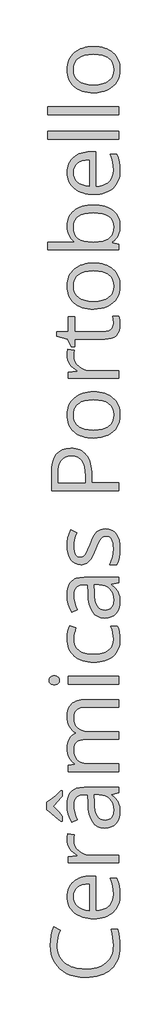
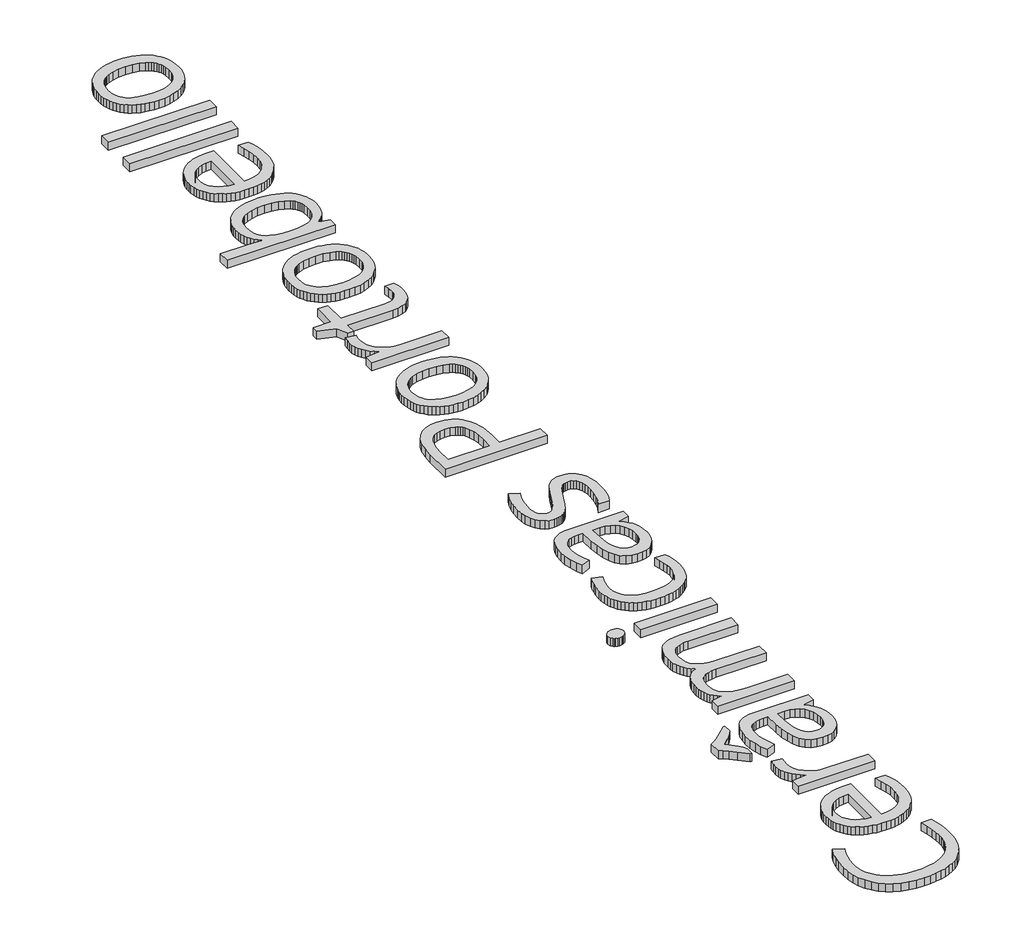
# One storey, part 3 of 4: 1 proxy.
"""IFC4 building model written with IfcOpenShell, lengths in millimetres."""

from ifc_helpers import new_model, si_unit, origin, origin_with_axes, place, context, project, spatial, polyline, outline, extrude, element, save

model = new_model("IFC4")

# Units and contexts
model_context = context("Model", 3, world=origin())
ifc_project = project(units=[si_unit("LENGTHUNIT", "METRE", prefix="MILLI")], contexts=[model_context])

# Site, building, storey
site = spatial("IfcSite", under=ifc_project)
building = spatial("IfcBuilding", under=site)
storey = spatial("IfcBuildingStorey", under=building, Name="PORTOBELLO - SHOWROOM", Elevation=0.0)

# Proxy
placement = place(None, origin())
element("IfcBuildingElementProxy", 1, Name="1200mm OpenSans", ObjectType="1200mm OpenSans", at=placement, inside=storey, context=model_context, shape_type="SweptSolid", body=[
    extrude(outline(polyline([(95856.1899027, 4795.2096134), (95858.3109499, 4747.025503), (95864.6740918, 4701.4441121), (95875.2793283, 4658.4654406), (95890.1266594, 4618.0894884), (95909.2160851, 4580.3162556), (95932.5476054, 4545.1457423), (95960.1212203, 4512.5779483), (95991.9369297, 4482.6128737), (96027.4426418, 4455.740641), (96066.0862645, 4432.4513727), (96107.8677978, 4412.7450687), (96152.7872417, 4396.6217291), (96200.8445962, 4384.0813538), (96252.0398614, 4375.1239429), (96306.3730371, 4369.7494964), (96363.8441235, 4367.9580142), (96422.7855773, 4369.6847101), (96478.2849065, 4374.8647977), (96530.3421112, 4383.4982771), (96578.9571913, 4395.5851482), (96624.1301468, 4411.1254111), (96665.8609778, 4430.1190657), (96704.1496842, 4452.5661121), (96738.9962661, 4478.4665502), (96770.0514407, 4507.5612348), (96796.9659253, 4539.5910208), (96819.73972, 4574.5559081), (96838.3728247, 4612.4558966), (96852.8652396, 4653.2909865), (96863.2169644, 4697.0611777), (96869.4279993, 4743.7664702), (96871.4983443, 4793.406864), (96868.6815484, 4858.5086504), (96860.2311608, 4927.982104), (96846.1471814, 5001.8272248), (96826.4296102, 5080.0440129), (96943.247769, 5080.0440129), (96962.3343779, 5014.0183174), (96975.9676699, 4940.691487), (96984.1476452, 4860.0635217), (96986.8743036, 4772.1344215), (96984.3363705, 4707.6861318), (96976.7225712, 4647.0236157), (96964.0329058, 4590.1468733), (96946.2673742, 4537.0559045), (96923.4259764, 4487.7507094), (96895.5087124, 4442.231288), (96862.5155822, 4400.4976402), (96824.4465859, 4362.5497661), (96781.7017084, 4328.7482155), (96734.6809348, 4299.4535384), (96683.384265, 4274.6657346), (96627.8116991, 4254.3848043), (96567.963237, 4238.6107473), (96503.8388788, 4227.3435638), (96435.4386244, 4220.5832537), (96362.7624739, 4218.329817), (96271.9264403, 4222.6676826), (96186.9042734, 4235.6812796), (96107.6959733, 4257.3706079), (96034.3015398, 4287.7356675), (95967.8589586, 4326.2919695), (95909.5062151, 4372.5550251), (95859.2433094, 4426.5248341), (95817.0702415, 4488.2013967), (95783.708111, 4556.6270023), (95759.8780179, 4630.8439401), (95745.579962, 4710.8522103), (95740.8139434, 4796.6518129), (95744.8025263, 4888.1413431), (95756.7682752, 4973.6818004), (95776.7111901, 5053.2731848), (95804.6312708, 5126.9154963), (95920.36778, 5067.7853172), (95892.2899587, 4999.6413912), (95872.234372, 4931.4974653), (95860.20102, 4863.3535393), (95856.1899027, 4795.2096134)])), origin_with_axes(), (0.0, 0.0, 1.0), 100.0),
    extrude(outline(polyline([(96986.8743036, 5703.074193), (96984.9476152, 5654.4506625), (96979.1675501, 5608.4523857), (96969.5341081, 5565.0793628), (96956.0472895, 5524.3315935), (96938.707094, 5486.2090781), (96917.5135218, 5450.7118164), (96892.4665728, 5417.8398085), (96863.5662471, 5387.5930543), (96831.2463312, 5360.46731), (96795.9406116, 5336.9583316), (96757.6490884, 5317.066119), (96716.3717616, 5300.7906724), (96672.1086311, 5288.1319918), (96624.859697, 5279.090077), (96574.6249592, 5273.6649281), (96521.4044179, 5271.8565452), (96467.6571357, 5273.5353555), (96416.7435501, 5278.5717865), (96368.6636612, 5286.9658383), (96323.417469, 5298.7175107), (96281.0049734, 5313.8268038), (96241.4261745, 5332.2937176), (96204.6810722, 5354.1182521), (96170.7696666, 5379.3004072), (96140.3060192, 5407.3106255), (96113.9041914, 5437.6193492), (96091.5641832, 5470.2265783), (96073.2859948, 5505.1323128), (96059.069626, 5542.3365528), (96048.9150768, 5581.8392982), (96042.8223473, 5623.6405491), (96040.7914375, 5667.7403054), (96042.5885533, 5709.0852354), (96047.9799006, 5748.2105302), (96056.9654794, 5785.1161898), (96069.5452898, 5819.8022143), (96085.7193318, 5852.2686036), (96105.4876053, 5882.5153578), (96128.8501103, 5910.5424768), (96155.8068469, 5936.3499606), (96185.709952, 5959.5040228), (96217.9115625, 5979.5708766), (96252.4116784, 5996.5505222), (96289.2102998, 6010.4429595), (96328.3074266, 6021.2481885), (96369.7030589, 6028.9662092), (96413.3971966, 6033.5970216), (96459.3898398, 6035.1406258), (96548.4456583, 6035.1406258), (96548.4456583, 5413.5526451), (96622.9893445, 5420.05381), (96687.9784591, 5435.5912561), (96743.413002, 5460.1649834), (96767.5473091, 5475.8404525), (96789.2929733, 5493.7749918), (96808.5598571, 5513.8052273), (96825.2578231, 5535.7677848), (96850.9470016, 5585.4898657), (96866.3605086, 5642.9412345), (96871.4983443, 5708.1218912), (96867.6900363, 5780.7501562), (96856.2651122, 5852.9728026), (96837.223572, 5924.7898303), (96810.5654158, 5996.2012395), (96930.2679736, 5996.2012395), (96956.2726331, 5925.7137394), (96973.7142332, 5859.1922879), (96983.584286, 5787.8935505), (96986.8743036, 5703.074193)]), holes=[polyline([(96156.1673968, 5666.2981059), (96160.7644077, 5614.7732757), (96174.5554403, 5568.7242966), (96197.5404947, 5528.1511688), (96229.7195708, 5493.0538921), (96270.0110191, 5464.0183601), (96317.3331899, 5441.6304665), (96371.6860832, 5425.8902111), (96433.069699, 5416.797594), (96433.069699, 5888.7573774), (96369.9284026, 5885.1518787), (96314.6290658, 5874.3353825), (96267.1716888, 5856.3078889), (96227.5562716, 5831.0693978), (96196.3236389, 5799.1381997), (96174.0146155, 5761.032585), (96160.6292015, 5716.7525538), (96156.1673968, 5666.2981059)])]), origin_with_axes(), (0.0, 0.0, 1.0), 100.0),
    extrude(outline(polyline([(96040.7914375, 6682.3276473), (96043.0448742, 6739.835352), (96049.8051843, 6791.2137089), (96168.4260924, 6772.1045656), (96159.2320707, 6718.9234594), (96156.1673968, 6672.5928008), (96161.8122557, 6619.2652212), (96178.7468326, 6569.9712932), (96206.9711273, 6524.711017), (96246.4851399, 6483.4843925), (96294.4270058, 6449.1758187), (96347.9348603, 6424.6696945), (96407.0087036, 6409.96602), (96471.6485354, 6405.0647952), (96963.7991117, 6405.0647952), (96963.7991117, 6268.7769433), (96063.8666294, 6268.7769433), (96063.8666294, 6381.2685036), (96225.3929723, 6396.7721481), (96225.3929723, 6403.2620458), (96183.5917215, 6429.9652708), (96146.8832376, 6459.2374136), (96115.2675206, 6491.0784742), (96088.7445706, 6525.4884527), (96067.7650749, 6562.0617304), (96052.7797208, 6600.3926888), (96043.7885083, 6640.4813277), (96040.7914375, 6682.3276473)])), origin_with_axes(), (0.0, 0.0, 1.0), 100.0),
    extrude(outline(polyline([(96963.7991117, 7521.6877511), (96832.1984082, 7494.2859608), (96832.1984082, 7487.4355132), (96873.7968497, 7453.3973518), (96908.0941564, 7419.4267934), (96935.0903281, 7385.5238382), (96954.7853649, 7351.6884861), (96968.8242756, 7315.7799722), (96978.8520689, 7275.6575317), (96984.8687449, 7231.3211645), (96986.8743036, 7182.7708707), (96982.4012317, 7118.6605965), (96968.9820161, 7061.8965259), (96946.6166569, 7012.4786589), (96915.3051538, 6970.4069957), (96875.7460725, 6936.8082544), (96828.6379782, 6912.8091535), (96773.9808709, 6898.4096929), (96711.7747507, 6893.6098728), (96645.2251312, 6900.5166563), (96587.0920978, 6921.2370068), (96537.3756505, 6955.7709243), (96496.0757893, 7004.1184088), (96463.1925142, 7066.2794603), (96438.7258252, 7142.2540788), (96422.6757222, 7232.0422643), (96415.0422054, 7335.6440168), (96409.9945072, 7490.3199122), (96355.9120263, 7490.3199122), (96308.2180384, 7487.4355132), (96267.1716888, 7478.7823162), (96232.7729776, 7464.3603213), (96205.0219045, 7444.1695284), (96183.6480574, 7417.6240441), (96168.3810237, 7384.1379746), (96159.2208035, 7343.7113202), (96156.1673968, 7296.3440806), (96160.4939952, 7237.3491077), (96173.4737907, 7174.6584986), (96195.106783, 7108.2722533), (96225.3929723, 7038.1903717), (96120.1124095, 6995.6454868), (96086.9868899, 7066.2231243), (96061.8836051, 7143.1103847), (96046.0644794, 7223.3327314), (96040.7914375, 7303.9156279), (96045.2983109, 7380.1155901), (96058.8189311, 7445.7469341), (96081.3532982, 7500.80966), (96096.0006368, 7524.3777912), (96112.901412, 7545.3037678), (96132.2866013, 7563.6833609), (96154.3871818, 7579.6123416), (96179.2031535, 7593.0907099), (96206.7345164, 7604.1184657), (96269.943416, 7618.8221402), (96344.0138805, 7623.7233651), (96963.7991117, 7623.7233651), (96963.7991117, 7521.6877511)]), holes=[polyline([(96871.4983443, 7209.8121112), (96867.1379443, 7271.0605208), (96854.0567442, 7325.3683454), (96832.2547441, 7372.7355849), (96801.7319439, 7413.1622394), (96763.367184, 7445.4990561), (96718.0393047, 7468.5967823), (96665.748306, 7482.4554181), (96606.4941878, 7487.0749633), (96525.3704665, 7487.0749633), (96531.1392644, 7348.2632623), (96536.4573751, 7271.443605), (96546.642909, 7206.116475), (96561.6958661, 7152.2818721), (96581.6162466, 7109.9397964), (96607.057547, 7077.9184608), (96638.673264, 7055.0460783), (96676.4633975, 7041.3226488), (96720.4279476, 7036.7481722), (96755.1759416, 7039.5987697), (96785.5071997, 7048.150562), (96811.4217218, 7062.4035491), (96832.9195079, 7082.3577311), (96849.7977488, 7107.4272145), (96861.8536352, 7137.0261056), (96869.087167, 7171.1544045), (96871.4983443, 7209.8121112)])]), origin_with_axes(), (0.0, 0.0, 1.0), 100.0),
    extrude(outline(polyline([(95929.0209769, 7011.870231), (95829.5092121, 7100.2049498), (95760.2836365, 7157.5323796), (95711.0685789, 7193.5873669), (95671.5883678, 7218.1047582), (95671.5883678, 7354.0320603), (95712.1502285, 7378.6846578), (95763.1680355, 7416.5874632), (95832.7541609, 7475.5824361), (95929.0209769, 7563.5115363), (95948.4906701, 7563.5115363), (95948.4906701, 7466.1630707), (95920.7733986, 7427.809578), (95884.8536175, 7384.8590744), (95788.4065266, 7285.1670346), (95886.1155421, 7184.6637575), (95921.719842, 7142.5920943), (95948.4906701, 7105.9737478), (95948.4906701, 7011.870231), (95929.0209769, 7011.870231)])), origin_with_axes(), (0.0, 0.0, 1.0), 100.0),
    extrude(outline(polyline([(96963.7991117, 9057.2696591), (96373.2184202, 9057.2696591), (96322.3470866, 9054.3852601), (96278.2585974, 9045.7320632), (96240.9529528, 9031.3100683), (96210.4301526, 9011.1192754), (96186.6901969, 8984.8442034), (96169.7330857, 8952.1693712), (96159.558819, 8913.0947787), (96156.1673968, 8867.620426), (96160.7756748, 8807.9719565), (96174.600509, 8756.6612027), (96197.6418993, 8713.6881648), (96229.8998458, 8679.0528426), (96271.7348982, 8652.3946864), (96323.5076065, 8633.3531462), (96385.2179706, 8621.9282221), (96456.8659906, 8618.1199141), (96963.7991117, 8618.1199141), (96963.7991117, 8481.4715123), (96373.2184202, 8481.4715123), (96322.3470866, 8478.5871134), (96278.2585974, 8469.9339164), (96240.9529528, 8455.5119215), (96210.4301526, 8435.3211286), (96186.6901969, 8409.0009879), (96169.7330857, 8376.1909495), (96159.558819, 8336.8910134), (96156.1673968, 8291.1011795), (96161.0122857, 8231.0470913), (96175.5469524, 8179.6011314), (96199.771397, 8136.7632996), (96215.517286, 8118.5724318), (96233.6856194, 8102.5335961), (96278.6191473, 8076.3486616), (96335.9015083, 8057.6451369), (96405.5327025, 8046.4230221), (96487.5127298, 8042.6823172), (96963.7991117, 8042.6823172), (96963.7991117, 7906.3944653), (96063.8666294, 7906.3944653), (96063.8666294, 8017.4438261), (96179.2425886, 8039.4373683), (96179.2425886, 8045.9272661), (96148.4043073, 8067.3687163), (96121.1489904, 8092.7536808), (96097.4766378, 8122.0821595), (96077.3872496, 8155.3541524), (96061.3765818, 8191.6457506), (96049.9403905, 8230.0330448), (96043.0786758, 8270.5160352), (96040.7914375, 8313.0947218), (96043.157546, 8363.7181773), (96050.2558717, 8409.7671564), (96062.0864144, 8451.2416589), (96078.6491741, 8488.141685), (96099.944151, 8520.4672345), (96125.9713449, 8548.2183075), (96156.730756, 8571.394904), (96192.2223841, 8589.997024), (96192.2223841, 8596.4869217), (96159.0743301, 8618.9424185), (96129.5768437, 8645.927323), (96103.7299247, 8677.4416354), (96081.5335731, 8713.4853554), (96063.7088888, 8753.1345743), (96050.9769714, 8795.4653828), (96043.337821, 8840.4777809), (96040.7914375, 8888.1717688), (96045.7264639, 8959.9775294), (96060.531543, 9022.1611153), (96071.6353524, 9049.6445927), (96085.2066749, 9074.7225264), (96101.2455107, 9097.3949164), (96119.7518596, 9117.6617628), (96140.9735998, 9135.5343327), (96165.1586092, 9151.0238932), (96192.3068879, 9164.1304444), (96222.4184359, 9174.8539864), (96291.5313396, 9189.1520422), (96372.4973204, 9193.9180609), (96963.7991117, 9193.9180609), (96963.7991117, 9057.2696591)])), origin_with_axes(), (0.0, 0.0, 1.0), 100.0),
    extrude(outline(polyline([(96963.7991117, 9607.8293148), (96963.7991117, 9471.5414629), (96063.8666294, 9471.5414629), (96063.8666294, 9607.8293148), (96963.7991117, 9607.8293148)])), origin_with_axes(), (0.0, 0.0, 1.0), 100.0),
    extrude(outline(polyline([(95809.6789691, 9460.003867), (95787.4713503, 9461.4460665), (95768.4410774, 9465.7726649), (95752.5881502, 9472.9836624), (95739.9125687, 9483.0790588), (95723.2822058, 9509.0386497), (95717.7387515, 9540.7670385), (95723.3723433, 9571.3236402), (95740.2731186, 9597.3733685), (95753.0613719, 9607.7842461), (95768.8917647, 9615.2205872), (95787.7642971, 9619.6823919), (95809.6789691, 9621.1696601), (95831.6161754, 9619.6823919), (95850.5563109, 9615.2205872), (95866.4993756, 9607.7842461), (95879.4453694, 9597.3733685), (95896.6165571, 9571.3236402), (95902.3402864, 9540.7670385), (95896.6165571, 9509.0386497), (95889.4618956, 9495.3377545), (95879.4453694, 9483.0790588), (95866.4993756, 9472.9836624), (95850.5563109, 9465.7726649), (95831.6161754, 9461.4460665), (95809.6789691, 9460.003867)])), origin_with_axes(), (0.0, 0.0, 1.0), 100.0),
    extrude(outline(polyline([(96986.8743036, 10277.7309784), (96984.9673328, 10229.8172804), (96979.2464203, 10184.6865768), (96969.7115663, 10142.3388675), (96956.3627706, 10102.7741526), (96939.2000333, 10065.992432), (96918.2233544, 10031.9937057), (96893.4327338, 10000.7779738), (96864.8281717, 9972.3452361), (96832.7364162, 9946.9940732), (96797.4842157, 9925.0230653), (96759.0715703, 9906.4322125), (96717.4984799, 9891.2215148), (96672.7649445, 9879.3909721), (96624.8709642, 9870.9405844), (96573.8165388, 9865.8703518), (96519.6016685, 9864.1802743), (96463.9896674, 9865.895703), (96411.6282488, 9871.0419891), (96362.5174126, 9879.6191325), (96316.6571589, 9891.6271334), (96274.0474876, 9907.0659916), (96234.6883987, 9925.9357072), (96198.5798924, 9948.2362802), (96165.7219684, 9973.9677106), (96136.4413752, 10002.8708531), (96111.0648611, 10034.6865626), (96089.5924261, 10069.414839), (96072.0240702, 10107.0556823), (96058.3597934, 10147.6090926), (96048.5995957, 10191.0750699), (96042.743477, 10237.4536141), (96040.7914375, 10286.7447252), (96044.1265238, 10352.3197333), (96054.1317828, 10417.8046039), (96068.6439152, 10476.1686146), (96085.4996217, 10520.3810427), (96198.3517319, 10478.1967076), (96181.8115065, 10430.3787807), (96168.2458175, 10378.5046678), (96159.187002, 10327.7122045), (96156.1673968, 10283.1392264), (96161.8066221, 10218.1557455), (96178.7242982, 10161.8367286), (96206.920425, 10114.1821759), (96246.3950024, 10075.1920873), (96297.1480306, 10044.8664629), (96359.1795095, 10023.2053026), (96432.4894391, 10010.2086064), (96517.0778194, 10005.8763743), (96597.7283191, 10010.1015681), (96668.4186285, 10022.7771496), (96729.1487477, 10043.9031187), (96779.9186766, 10073.4794754), (96801.3826612, 10091.397114), (96819.9847812, 10111.3484793), (96835.7250366, 10133.3335711), (96848.6034274, 10157.3523896), (96858.6199535, 10183.4049347), (96865.7746151, 10211.4912064), (96871.4983443, 10273.7649298), (96868.4562048, 10331.0698252), (96859.3297861, 10389.0507516), (96844.1190883, 10447.707709), (96822.8241115, 10507.0406974), (96941.4450196, 10507.0406974), (96961.3203314, 10458.5016708), (96975.5169826, 10404.1037088), (96984.0349733, 10343.8468113), (96986.8743036, 10277.7309784)])), origin_with_axes(), (0.0, 0.0, 1.0), 100.0),
    extrude(outline(polyline([(96963.7991117, 11282.9440236), (96832.1984082, 11255.5422332), (96832.1984082, 11248.6917857), (96873.7968497, 11214.6536242), (96908.0941564, 11180.6830659), (96935.0903281, 11146.7801107), (96954.7853649, 11112.9447586), (96968.8242756, 11077.0362447), (96978.8520689, 11036.9138042), (96984.8687449, 10992.577437), (96986.8743036, 10944.0271432), (96982.4012317, 10879.9168689), (96968.9820161, 10823.1527983), (96946.6166569, 10773.7349314), (96915.3051538, 10731.6632681), (96875.7460725, 10698.0645269), (96828.6379782, 10674.065426), (96773.9808709, 10659.6659654), (96711.7747507, 10654.8661452), (96645.2251312, 10661.7729287), (96587.0920978, 10682.4932792), (96537.3756505, 10717.0271967), (96496.0757893, 10765.3746812), (96463.1925142, 10827.5357327), (96438.7258252, 10903.5103512), (96422.6757222, 10993.2985367), (96415.0422054, 11096.9002892), (96409.9945072, 11251.5761846), (96355.9120263, 11251.5761846), (96308.2180384, 11248.6917857), (96267.1716888, 11240.0385887), (96232.7729776, 11225.6165938), (96205.0219045, 11205.4258009), (96183.6480574, 11178.8803165), (96168.3810237, 11145.3942471), (96159.2208035, 11104.9675926), (96156.1673968, 11057.6003531), (96160.4939952, 10998.6053802), (96173.4737907, 10935.914771), (96195.106783, 10869.5285257), (96225.3929723, 10799.4466442), (96120.1124095, 10756.9017592), (96086.9868899, 10827.4793968), (96061.8836051, 10904.3666572), (96046.0644794, 10984.5890039), (96040.7914375, 11065.1719004), (96045.2983109, 11141.3718626), (96058.8189311, 11207.0032066), (96081.3532982, 11262.0659325), (96096.0006368, 11285.6340636), (96112.901412, 11306.5600402), (96132.2866013, 11324.9396334), (96154.3871818, 11340.8686141), (96179.2031535, 11354.3469824), (96206.7345164, 11365.3747382), (96269.943416, 11380.0784127), (96344.0138805, 11384.9796376), (96963.7991117, 11384.9796376), (96963.7991117, 11282.9440236)]), holes=[polyline([(96871.4983443, 10971.0683836), (96867.1379443, 11032.3167933), (96854.0567442, 11086.6246179), (96832.2547441, 11133.9918574), (96801.7319439, 11174.4185119), (96763.367184, 11206.7553286), (96718.0393047, 11229.8530548), (96665.748306, 11243.7116905), (96606.4941878, 11248.3312358), (96525.3704665, 11248.3312358), (96531.1392644, 11109.5195348), (96536.4573751, 11032.6998775), (96546.642909, 10967.3727474), (96561.6958661, 10913.5381446), (96581.6162466, 10871.1960689), (96607.057547, 10839.1747333), (96638.673264, 10816.3023508), (96676.4633975, 10802.5789212), (96720.4279476, 10798.0044447), (96755.1759416, 10800.8550422), (96785.5071997, 10809.4068345), (96811.4217218, 10823.6598216), (96832.9195079, 10843.6140036), (96849.7977488, 10868.683487), (96861.8536352, 10898.2823781), (96869.087167, 10932.410677), (96871.4983443, 10971.0683836)])]), origin_with_axes(), (0.0, 0.0, 1.0), 100.0),
    extrude(outline(polyline([(96721.1490474, 12252.4626314), (96781.3045402, 12246.5698944), (96808.6359106, 12239.2039732), (96834.1363637, 12228.8916834), (96857.8058995, 12215.6330252), (96879.644518, 12199.4279985), (96899.6522191, 12180.2766033), (96917.829003, 12158.1788397), (96948.036322, 12106.2934595), (96969.6129784, 12044.9211109), (96982.5589723, 11974.0617937), (96986.8743036, 11893.715508), (96983.3138736, 11808.6933411), (96972.6325836, 11733.541227), (96954.8304336, 11668.2591657), (96929.9074237, 11612.8471571), (96802.2727687, 11612.8471571), (96830.9815524, 11680.5403957), (96852.9300259, 11753.1010576), (96866.8562647, 11826.6532317), (96871.4983443, 11897.3210067), (96869.3575794, 11948.1022029), (96862.9352848, 11992.6413793), (96852.2314605, 12030.9385361), (96837.2461064, 12062.9936733), (96817.8665507, 12088.3110346), (96793.9801217, 12106.3948642), (96765.5868192, 12117.2451619), (96732.6866433, 12120.8619278), (96706.9749305, 12117.988796), (96683.2011733, 12109.3694006), (96661.3653716, 12095.0037416), (96641.4675255, 12074.8918191), (96621.6823512, 12046.464715), (96600.1845651, 12007.1535117), (96552.0511571, 11895.8788072), (96507.5232478, 11787.6237079), (96469.1246863, 11715.9644207), (96431.4021559, 11669.4084184), (96410.7494085, 11651.2344514), (96388.9023396, 11636.4631738), (96365.3426589, 11625.0269825), (96339.5520758, 11616.8582745), (96311.5305904, 11611.9570496), (96281.2782026, 11610.323308), (96228.502715, 11615.9568998), (96181.5861628, 11632.8576751), (96140.528546, 11661.0256339), (96105.3298647, 11700.4607762), (96077.0943028, 11749.7209026), (96056.9260443, 11807.3638135), (96044.8250892, 11873.3895089), (96040.7914375, 11947.7979889), (96044.5321424, 12020.4262539), (96055.7542572, 12092.2883504), (96074.4577819, 12163.3842784), (96100.6427164, 12233.714038), (96212.0526271, 12184.6792553), (96187.6028388, 12117.9775288), (96170.1387043, 12054.5207512), (96159.6602237, 11994.3089225), (96156.1673968, 11937.3420426), (96158.0940852, 11891.4846057), (96163.8741503, 11851.6213104), (96173.5075922, 11817.7521567), (96186.9944109, 11789.8771446), (96203.883919, 11768.1089461), (96223.7254292, 11752.5602328), (96246.5189414, 11743.2310049), (96272.2644558, 11740.1212622), (96306.29135, 11744.7633418), (96334.8198587, 11758.6895807), (96359.9682123, 11782.9816283), (96383.8546414, 11818.7211345), (96412.3831501, 11879.2033756), (96451.4577426, 11977.7236283), (96481.0679009, 12051.7828256), (96510.7681966, 12112.7946244), (96540.5586299, 12160.7590247), (96570.4392006, 12195.6760264), (96602.3027956, 12220.5201661), (96638.0423017, 12238.2659801), (96677.657719, 12248.9134686), (96721.1490474, 12252.4626314)])), origin_with_axes(), (0.0, 0.0, 1.0), 100.0),
    extrude(outline(polyline([(96107.493164, 13697.5465213), (96150.9140725, 13695.5972986), (96191.7604295, 13689.7496303), (96230.0322352, 13680.0035166), (96265.7294894, 13666.3589574), (96298.8521921, 13648.8159526), (96329.4003434, 13627.3745024), (96357.3739433, 13602.0346066), (96382.7729918, 13572.7962654), (96405.3777787, 13539.9242574), (96424.9685941, 13503.6833616), (96441.5454378, 13464.073578), (96455.10831, 13421.0949064), (96465.6572106, 13374.747347), (96473.1921396, 13325.0308997), (96477.713097, 13271.9455645), (96479.2200828, 13215.4913415), (96479.2200828, 13073.7952415), (96963.7991117, 13073.7952415), (96963.7991117, 12934.2624407), (95763.8891352, 12934.2624407), (95763.8891352, 13246.4986305), (95769.2579482, 13352.2129799), (95785.364387, 13443.8320828), (95812.2084518, 13521.355939), (95849.7901424, 13584.7845486), (95898.109459, 13634.1179117), (95957.1664014, 13669.3560282), (96026.9609697, 13690.498898), (96107.493164, 13697.5465213)]), holes=[polyline([(96363.8441235, 13073.7952415), (96363.8441235, 13199.987697), (96360.1259529, 13286.7450101), (96348.9714412, 13360.6126653), (96330.3805884, 13421.5906625), (96304.3533945, 13469.6790018), (96288.3539939, 13489.1993972), (96270.1011566, 13506.1170733), (96249.5948826, 13520.4320299), (96226.8351718, 13532.1442672), (96174.5554403, 13547.7605836), (96113.2619619, 13552.9660224), (96057.9062893, 13548.0647975), (96010.0996296, 13533.361123), (95969.8419829, 13508.8549989), (95937.1333491, 13474.5464251), (95911.8159877, 13429.8945767), (95893.7321582, 13374.3586292), (95882.8818604, 13307.9385823), (95879.2650945, 13230.6344361), (95879.2650945, 13073.7952415), (96363.8441235, 13073.7952415)])]), origin_with_axes(), (0.0, 0.0, 1.0), 100.0),
    extrude(outline(polyline([(96513.1117708, 14704.9228658), (96567.3773434, 14703.1905363), (96618.5838758, 14697.9935479), (96666.7313677, 14689.3319006), (96711.8198194, 14677.2055943), (96753.8492307, 14661.6146291), (96792.8196018, 14642.559005), (96828.7309324, 14620.0387219), (96861.5832228, 14594.0537799), (96890.9483199, 14565.0210648), (96916.3980706, 14533.3574623), (96937.9324752, 14499.0629724), (96955.5515334, 14462.1375952), (96969.2552453, 14422.5813307), (96979.043611, 14380.3941788), (96984.9166304, 14335.5761395), (96986.8743036, 14288.1272129), (96983.280072, 14229.4364539), (96972.4973774, 14174.1483844), (96954.5262197, 14122.2630043), (96929.3665989, 14073.7803136), (96897.4917367, 14029.6692901), (96859.3748548, 13990.8989116), (96815.0159533, 13957.469178), (96764.4150321, 13929.3800895), (96708.41713, 13907.1386692), (96647.8672857, 13891.2519405), (96582.7654993, 13881.7199032), (96513.1117708, 13878.5425575), (96458.8574653, 13880.2608029), (96407.6847346, 13885.4155394), (96359.5935785, 13894.0067668), (96314.5839971, 13906.0344853), (96272.6559904, 13921.4986946), (96233.8095584, 13940.399395), (96198.0447011, 13962.7365863), (96165.3614185, 13988.5102686), (96136.1653292, 14017.3373577), (96110.8620518, 14048.8347692), (96089.4515863, 14083.0025033), (96071.9339328, 14119.8405598), (96058.3090911, 14159.3489388), (96048.5770613, 14201.5276403), (96042.7378435, 14246.3766644), (96040.7914375, 14293.8960109), (96042.7829122, 14339.8295013), (96048.7573362, 14383.3461809), (96058.7147097, 14424.4460496), (96072.6550325, 14463.1291074), (96090.5783047, 14499.3953543), (96112.4845263, 14533.2447904), (96138.3736972, 14564.6774157), (96168.2458175, 14593.6932301), (96201.5149937, 14619.7626759), (96237.5953321, 14642.3561957), (96276.4868328, 14661.4737893), (96318.1894958, 14677.1154569), (96362.7033211, 14689.2811983), (96410.0283087, 14697.9710136), (96460.1644586, 14703.1849027), (96513.1117708, 14704.9228658)]), holes=[polyline([(96512.0301212, 14020.2386575), (96594.596042, 14024.5427216), (96666.7060166, 14037.4549139), (96728.3600448, 14058.9752344), (96755.2660791, 14072.9634427), (96779.5581268, 14089.1036831), (96801.1066152, 14107.3283525), (96819.7819719, 14127.5698477), (96835.5841968, 14149.8281687), (96848.5132899, 14174.1033156), (96858.5692512, 14200.3952884), (96865.7520807, 14228.704087), (96871.4983443, 14291.3721618), (96865.7746151, 14354.0627709), (96858.6199535, 14382.3997374), (96848.6034274, 14408.7311453), (96835.7250366, 14433.0569946), (96819.9847812, 14455.3772851), (96801.3826612, 14475.692017), (96779.9186766, 14494.0011902), (96755.6998656, 14510.2259345), (96728.8332665, 14524.2873795), (96667.1567039, 14545.9203719), (96594.8889888, 14558.9001673), (96512.0301212, 14563.2267658), (96430.0162923, 14558.9001673), (96358.4809441, 14545.9203719), (96297.4240766, 14524.2873795), (96270.8250731, 14510.2259345), (96246.8456898, 14494.0011902), (96225.5929649, 14475.6638491), (96207.1739366, 14455.2646133), (96191.588605, 14432.8034829), (96178.83697, 14408.280458), (96168.9190317, 14381.6955385), (96161.8347901, 14353.0487244), (96156.1673968, 14289.5694124), (96161.7559198, 14226.9576736), (96168.7415736, 14198.7192948), (96178.5214889, 14172.52591), (96191.0956657, 14148.3775189), (96206.464104, 14126.2741216), (96224.6268039, 14106.2157181), (96245.5837652, 14088.2023085), (96269.3068201, 14072.2733278), (96295.7678006, 14058.4682111), (96356.9035384, 14037.2295702), (96428.9909786, 14024.4863856), (96512.0301212, 14020.2386575)])]), origin_with_axes(), (0.0, 0.0, 1.0), 100.0),
    extrude(outline(polyline([(96040.7914375, 15358.5997851), (96043.0448742, 15416.1074898), (96049.8051843, 15467.4858467), (96168.4260924, 15448.3767034), (96159.2320707, 15395.1955972), (96156.1673968, 15348.8649385), (96161.8122557, 15295.5373589), (96178.7468326, 15246.243431), (96206.9711273, 15200.9831548), (96246.4851399, 15159.7565303), (96294.4270058, 15125.4479564), (96347.9348603, 15100.9418323), (96407.0087036, 15086.2381578), (96471.6485354, 15081.3369329), (96963.7991117, 15081.3369329), (96963.7991117, 14945.049081), (96063.8666294, 14945.049081), (96063.8666294, 15057.5406413), (96225.3929723, 15073.0442859), (96225.3929723, 15079.5341836), (96183.5917215, 15106.2374085), (96146.8832376, 15135.5095513), (96115.2675206, 15167.350612), (96088.7445706, 15201.7605904), (96067.7650749, 15238.3338682), (96052.7797208, 15276.6648265), (96043.7885083, 15316.7534655), (96040.7914375, 15358.5997851)])), origin_with_axes(), (0.0, 0.0, 1.0), 100.0),
    extrude(outline(polyline([(96871.4983443, 15931.152983), (96866.0900962, 16001.8207581), (96854.9130502, 16055.903239), (96961.6358125, 16055.903239), (96971.550934, 16028.2310362), (96979.6633061, 15989.9226123), (96985.0715542, 15948.5495144), (96986.8743036, 15911.6832899), (96982.5927738, 15849.8264523), (96969.7481846, 15796.2171931), (96948.3405359, 15750.8555123), (96918.3698278, 15713.7414097), (96879.8360601, 15684.8748855), (96832.739233, 15664.2559397), (96777.0793464, 15651.8845722), (96712.8564003, 15647.760783), (96179.2425886, 15647.760783), (96179.2425886, 15517.2417291), (96111.8197624, 15517.2417291), (96053.410683, 15647.0396833), (95856.1899027, 15705.0882128), (95856.1899027, 15784.4091848), (96063.8666294, 15784.4091848), (96063.8666294, 16049.4133413), (96179.2425886, 16049.4133413), (96179.2425886, 15784.4091848), (96704.5637532, 15784.4091848), (96742.5904976, 15786.8541636), (96775.9075593, 15794.1891001), (96804.5149383, 15806.4139942), (96828.4126345, 15823.528846), (96847.2626325, 15844.9252275), (96860.7269169, 15869.9947108), (96868.8054874, 15898.737296), (96871.4983443, 15931.152983)])), origin_with_axes(), (0.0, 0.0, 1.0), 100.0),
    extrude(outline(polyline([(96513.1117708, 17012.4420514), (96567.3773434, 17010.7097219), (96618.5838758, 17005.5127335), (96666.7313677, 16996.8510862), (96711.8198194, 16984.7247799), (96753.8492307, 16969.1338147), (96792.8196018, 16950.0781906), (96828.7309324, 16927.5579075), (96861.5832228, 16901.5729655), (96890.9483199, 16872.5402504), (96916.3980706, 16840.8766479), (96937.9324752, 16806.582158), (96955.5515334, 16769.6567808), (96969.2552453, 16730.1005163), (96979.043611, 16687.9133643), (96984.9166304, 16643.0953251), (96986.8743036, 16595.6463985), (96983.280072, 16536.9556395), (96972.4973774, 16481.6675699), (96954.5262197, 16429.7821898), (96929.3665989, 16381.2994991), (96897.4917367, 16337.1884756), (96859.3748548, 16298.4180971), (96815.0159533, 16264.9883636), (96764.4150321, 16236.8992751), (96708.41713, 16214.6578548), (96647.8672857, 16198.771126), (96582.7654993, 16189.2390888), (96513.1117708, 16186.061743), (96458.8574653, 16187.7799885), (96407.6847346, 16192.934725), (96359.5935785, 16201.5259524), (96314.5839971, 16213.5536708), (96272.6559904, 16229.0178802), (96233.8095584, 16247.9185806), (96198.0447011, 16270.2557719), (96165.3614185, 16296.0294542), (96136.1653292, 16324.8565433), (96110.8620518, 16356.3539548), (96089.4515863, 16390.5216888), (96071.9339328, 16427.3597454), (96058.3090911, 16466.8681244), (96048.5770613, 16509.0468259), (96042.7378435, 16553.8958499), (96040.7914375, 16601.4151964), (96042.7829122, 16647.3486869), (96048.7573362, 16690.8653664), (96058.7147097, 16731.9652351), (96072.6550325, 16770.648293), (96090.5783047, 16806.9145399), (96112.4845263, 16840.763976), (96138.3736972, 16872.1966013), (96168.2458175, 16901.2124156), (96201.5149937, 16927.2818615), (96237.5953321, 16949.8753813), (96276.4868328, 16968.9929749), (96318.1894958, 16984.6346424), (96362.7033211, 16996.8003838), (96410.0283087, 17005.4901991), (96460.1644586, 17010.7040883), (96513.1117708, 17012.4420514)]), holes=[polyline([(96512.0301212, 16327.757843), (96594.596042, 16332.0619071), (96666.7060166, 16344.9740994), (96728.3600448, 16366.49442), (96755.2660791, 16380.4826283), (96779.5581268, 16396.6228687), (96801.1066152, 16414.8475381), (96819.7819719, 16435.0890333), (96835.5841968, 16457.3473543), (96848.5132899, 16481.6225012), (96858.5692512, 16507.914474), (96865.7520807, 16536.2232726), (96871.4983443, 16598.8913473), (96865.7746151, 16661.5819564), (96858.6199535, 16689.918923), (96848.6034274, 16716.2503309), (96835.7250366, 16740.5761801), (96819.9847812, 16762.8964707), (96801.3826612, 16783.2112026), (96779.9186766, 16801.5203758), (96755.6998656, 16817.7451201), (96728.8332665, 16831.8065651), (96667.1567039, 16853.4395575), (96594.8889888, 16866.4193529), (96512.0301212, 16870.7459514), (96430.0162923, 16866.4193529), (96358.4809441, 16853.4395575), (96297.4240766, 16831.8065651), (96270.8250731, 16817.7451201), (96246.8456898, 16801.5203758), (96225.5929649, 16783.1830346), (96207.1739366, 16762.7837989), (96191.588605, 16740.3226685), (96178.83697, 16715.7996436), (96168.9190317, 16689.214724), (96161.8347901, 16660.5679099), (96156.1673968, 16597.088598), (96161.7559198, 16534.4768591), (96168.7415736, 16506.2384804), (96178.5214889, 16480.0450955), (96191.0956657, 16455.8967044), (96206.464104, 16433.7933072), (96224.6268039, 16413.7349037), (96245.5837652, 16395.721494), (96269.3068201, 16379.7925133), (96295.7678006, 16365.9873967), (96356.9035384, 16344.7487558), (96428.9909786, 16332.0055712), (96512.0301212, 16327.757843)])]), origin_with_axes(), (0.0, 0.0, 1.0), 100.0),
    extrude(outline(polyline([(96040.7914375, 17673.690518), (96042.7153091, 17717.2353655), (96048.4869238, 17758.2732647), (96058.1062818, 17796.8042155), (96071.5733829, 17832.8282181), (96088.8882272, 17866.3452722), (96110.0508146, 17897.3553781), (96135.0611452, 17925.8585356), (96163.919219, 17951.8547448), (96196.2926541, 17975.0510589), (96231.8490685, 17995.1545311), (96270.5884623, 18012.1651614), (96312.5108353, 18026.0829499), (96357.6161878, 18036.9078964), (96405.9045196, 18044.6400011), (96457.3758307, 18049.2792639), (96512.0301212, 18050.8256849), (96566.7942667, 18049.26518), (96618.414868, 18044.5836652), (96666.8919251, 18036.7811406), (96712.225438, 18025.8576062), (96754.4154067, 18011.8130619), (96793.4618312, 17994.6475078), (96829.3647115, 17974.3609439), (96862.1240476, 17950.9533701), (96891.3623889, 17924.7797028), (96916.7022846, 17896.1948582), (96938.1437348, 17865.1988363), (96955.6867396, 17831.7916372), (96969.3312988, 17795.9732608), (96979.0774126, 17757.7437071), (96984.9250808, 17717.1029761), (96986.8743036, 17674.0510679), (96984.812409, 17630.6611441), (96978.6267252, 17589.1866416), (96968.3172523, 17549.6275602), (96953.8839902, 17511.9839001), (96935.1691984, 17476.7964859), (96912.0151363, 17444.6061426), (96884.4218038, 17415.4128701), (96852.389201, 17389.2166684), (96852.389201, 17379.1212719), (96963.7991117, 17350.2772821), (96963.7991117, 17252.5682666), (95694.6635597, 17252.5682666), (95694.6635597, 17388.8561185), (95995.7227034, 17388.8561185), (96091.8092445, 17387.2336441), (96177.4398393, 17382.3662208), (96177.4398393, 17388.8561185), (96145.4128701, 17414.365022), (96117.6561635, 17442.7583245), (96094.1697194, 17474.0360259), (96074.9535379, 17508.1981264), (96060.007619, 17545.2446258), (96049.3319626, 17585.1755242), (96042.9265688, 17627.9908216), (96040.7914375, 17673.690518)]), holes=[polyline([(96156.1673968, 17654.5813747), (96161.2601637, 17588.8598932), (96176.5384646, 17533.0309989), (96187.9971902, 17508.8262719), (96202.0022993, 17487.0946917), (96218.5537919, 17467.8362582), (96237.651668, 17451.0509716), (96259.7635157, 17436.4740529), (96285.3569231, 17423.8407234), (96346.9884169, 17404.4048318), (96422.5461496, 17392.7432968), (96512.0301212, 17388.8561185), (96601.7732379, 17392.8559687), (96677.7478564, 17404.8555191), (96739.9539767, 17424.8547699), (96765.8938499, 17437.8542829), (96788.3915986, 17452.8537209), (96807.8697422, 17470.0558934), (96824.7507999, 17489.6636095), (96839.0347718, 17511.6768693), (96850.7216579, 17536.0956728), (96866.3041727, 17592.1499108), (96871.4983443, 17657.8263236), (96865.6732104, 17717.3959229), (96858.3917931, 17744.1301326), (96848.1978088, 17768.8306157), (96835.0912575, 17791.4973721), (96819.0721394, 17812.1304019), (96800.1404543, 17830.7297051), (96778.2962022, 17847.2952817), (96726.6136314, 17874.5055299), (96664.768061, 17893.9414215), (96592.7594911, 17905.6029564), (96510.5879217, 17909.4901348), (96426.8614809, 17905.6029564), (96354.5148955, 17893.9414215), (96293.5481655, 17874.5055299), (96243.9612908, 17847.2952817), (96223.3845969, 17830.6790028), (96205.5514622, 17811.9275926), (96190.4618866, 17791.0410512), (96178.1158703, 17768.0193784), (96168.5134131, 17742.8625744), (96161.6545152, 17715.5706391), (96156.1673968, 17654.5813747)])]), origin_with_axes(), (0.0, 0.0, 1.0), 100.0),
    extrude(outline(polyline([(96986.8743036, 18671.3320159), (96984.9476152, 18622.7084854), (96979.1675501, 18576.7102086), (96969.5341081, 18533.3371857), (96956.0472895, 18492.5894165), (96938.707094, 18454.466901), (96917.5135218, 18418.9696393), (96892.4665728, 18386.0976314), (96863.5662471, 18355.8508772), (96831.2463312, 18328.7251329), (96795.9406116, 18305.2161545), (96757.6490884, 18285.323942), (96716.3717616, 18269.0484954), (96672.1086311, 18256.3898147), (96624.859697, 18247.3478999), (96574.6249592, 18241.922751), (96521.4044179, 18240.1143681), (96467.6571357, 18241.7931784), (96416.7435501, 18246.8296094), (96368.6636612, 18255.2236612), (96323.417469, 18266.9753336), (96281.0049734, 18282.0846267), (96241.4261745, 18300.5515405), (96204.6810722, 18322.376075), (96170.7696666, 18347.5582301), (96140.3060192, 18375.5684484), (96113.9041914, 18405.8771721), (96091.5641832, 18438.4844012), (96073.2859948, 18473.3901357), (96059.069626, 18510.5943757), (96048.9150768, 18550.0971212), (96042.8223473, 18591.898372), (96040.7914375, 18635.9981283), (96042.5885533, 18677.3430583), (96047.9799006, 18716.4683531), (96056.9654794, 18753.3740127), (96069.5452898, 18788.0600372), (96085.7193318, 18820.5264265), (96105.4876053, 18850.7731807), (96128.8501103, 18878.8002997), (96155.8068469, 18904.6077835), (96185.709952, 18927.7618457), (96217.9115625, 18947.8286995), (96252.4116784, 18964.8083451), (96289.2102998, 18978.7007824), (96328.3074266, 18989.5060114), (96369.7030589, 18997.2240321), (96413.3971966, 19001.8548445), (96459.3898398, 19003.3984487), (96548.4456583, 19003.3984487), (96548.4456583, 18381.8104681), (96622.9893445, 18388.3116329), (96687.9784591, 18403.849079), (96743.413002, 18428.4228063), (96767.5473091, 18444.0982754), (96789.2929733, 18462.0328147), (96808.5598571, 18482.0630502), (96825.2578231, 18504.0256077), (96850.9470016, 18553.7476886), (96866.3605086, 18611.1990574), (96871.4983443, 18676.3797141), (96867.6900363, 18749.0079791), (96856.2651122, 18821.2306255), (96837.223572, 18893.0476532), (96810.5654158, 18964.4590624), (96930.2679736, 18964.4590624), (96956.2726331, 18893.9715623), (96973.7142332, 18827.4501108), (96983.584286, 18756.1513734), (96986.8743036, 18671.3320159)]), holes=[polyline([(96156.1673968, 18634.5559288), (96160.7644077, 18583.0310986), (96174.5554403, 18536.9821195), (96197.5404947, 18496.4089917), (96229.7195708, 18461.311715), (96270.0110191, 18432.2761831), (96317.3331899, 18409.8882894), (96371.6860832, 18394.148034), (96433.069699, 18385.0554169), (96433.069699, 18857.0152003), (96369.9284026, 18853.4097016), (96314.6290658, 18842.5932054), (96267.1716888, 18824.5657118), (96227.5562716, 18799.3272207), (96196.3236389, 18767.3960226), (96174.0146155, 18729.2904079), (96160.6292015, 18685.0103767), (96156.1673968, 18634.5559288)])]), origin_with_axes(), (0.0, 0.0, 1.0), 100.0),
    extrude(outline(polyline([(96963.7991117, 19368.6354698), (96963.7991117, 19232.3476179), (95694.6635597, 19232.3476179), (95694.6635597, 19368.6354698), (96963.7991117, 19368.6354698)])), origin_with_axes(), (0.0, 0.0, 1.0), 100.0),
    extrude(outline(polyline([(96963.7991117, 19807.064115), (96963.7991117, 19670.7762631), (95694.6635597, 19670.7762631), (95694.6635597, 19807.064115), (96963.7991117, 19807.064115)])), origin_with_axes(), (0.0, 0.0, 1.0), 100.0),
    extrude(outline(polyline([(96513.1117708, 20889.0742831), (96567.3773434, 20887.3419537), (96618.5838758, 20882.1449653), (96666.7313677, 20873.4833179), (96711.8198194, 20861.3570117), (96753.8492307, 20845.7660465), (96792.8196018, 20826.7104223), (96828.7309324, 20804.1901393), (96861.5832228, 20778.2051973), (96890.9483199, 20749.1724821), (96916.3980706, 20717.5088796), (96937.9324752, 20683.2143898), (96955.5515334, 20646.2890126), (96969.2552453, 20606.732748), (96979.043611, 20564.5455961), (96984.9166304, 20519.7275568), (96986.8743036, 20472.2786302), (96983.280072, 20413.5878713), (96972.4973774, 20358.2998017), (96954.5262197, 20306.4144216), (96929.3665989, 20257.9317309), (96897.4917367, 20213.8207074), (96859.3748548, 20175.0503289), (96815.0159533, 20141.6205954), (96764.4150321, 20113.5315068), (96708.41713, 20091.2900866), (96647.8672857, 20075.4033578), (96582.7654993, 20065.8713205), (96513.1117708, 20062.6939748), (96458.8574653, 20064.4122203), (96407.6847346, 20069.5669567), (96359.5935785, 20078.1581842), (96314.5839971, 20090.1859026), (96272.6559904, 20105.650112), (96233.8095584, 20124.5508123), (96198.0447011, 20146.8880037), (96165.3614185, 20172.661686), (96136.1653292, 20201.488775), (96110.8620518, 20232.9861866), (96089.4515863, 20267.1539206), (96071.9339328, 20303.9919771), (96058.3090911, 20343.5003562), (96048.5770613, 20385.6790577), (96042.7378435, 20430.5280817), (96040.7914375, 20478.0474282), (96042.7829122, 20523.9809186), (96048.7573362, 20567.4975982), (96058.7147097, 20608.5974669), (96072.6550325, 20647.2805247), (96090.5783047, 20683.5467717), (96112.4845263, 20717.3962078), (96138.3736972, 20748.828833), (96168.2458175, 20777.8446474), (96201.5149937, 20803.9140933), (96237.5953321, 20826.507613), (96276.4868328, 20845.6252067), (96318.1894958, 20861.2668742), (96362.7033211, 20873.4326156), (96410.0283087, 20882.1224309), (96460.1644586, 20887.3363201), (96513.1117708, 20889.0742831)]), holes=[polyline([(96512.0301212, 20204.3900748), (96594.596042, 20208.6941389), (96666.7060166, 20221.6063312), (96728.3600448, 20243.1266517), (96755.2660791, 20257.1148601), (96779.5581268, 20273.2551005), (96801.1066152, 20291.4797698), (96819.7819719, 20311.721265), (96835.5841968, 20333.9795861), (96848.5132899, 20358.254733), (96858.5692512, 20384.5467057), (96865.7520807, 20412.8555043), (96871.4983443, 20475.5235791), (96865.7746151, 20538.2141882), (96858.6199535, 20566.5511548), (96848.6034274, 20592.8825627), (96835.7250366, 20617.2084119), (96819.9847812, 20639.5287024), (96801.3826612, 20659.8434343), (96779.9186766, 20678.1526076), (96755.6998656, 20694.3773518), (96728.8332665, 20708.4387969), (96667.1567039, 20730.0717892), (96594.8889888, 20743.0515847), (96512.0301212, 20747.3781831), (96430.0162923, 20743.0515847), (96358.4809441, 20730.0717892), (96297.4240766, 20708.4387969), (96270.8250731, 20694.3773518), (96246.8456898, 20678.1526076), (96225.5929649, 20659.8152664), (96207.1739366, 20639.4160306), (96191.588605, 20616.9549003), (96178.83697, 20592.4318753), (96168.9190317, 20565.8469558), (96161.8347901, 20537.2001417), (96156.1673968, 20473.7208297), (96161.7559198, 20411.1090909), (96168.7415736, 20382.8707122), (96178.5214889, 20356.6773273), (96191.0956657, 20332.5289362), (96206.464104, 20310.4255389), (96224.6268039, 20290.3671355), (96245.5837652, 20272.3537258), (96269.3068201, 20256.4247451), (96295.7678006, 20242.6196285), (96356.9035384, 20221.3809875), (96428.9909786, 20208.637803), (96512.0301212, 20204.3900748)])]), origin_with_axes(), (0.0, 0.0, 1.0), 100.0),
])

save(model, "model.ifc")
